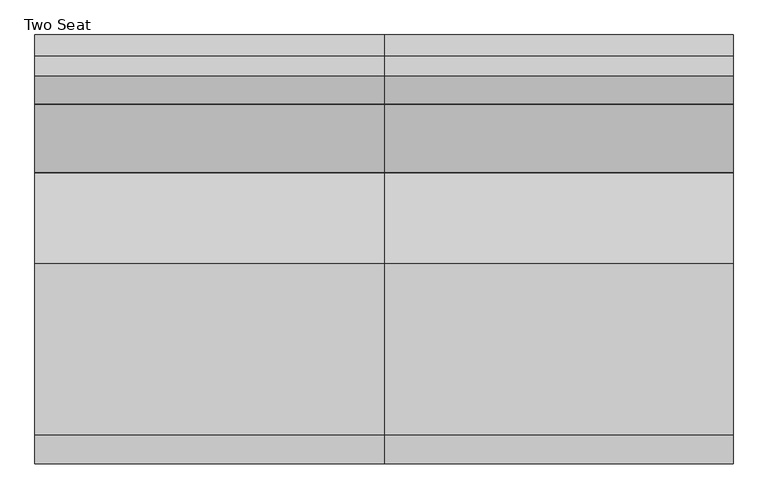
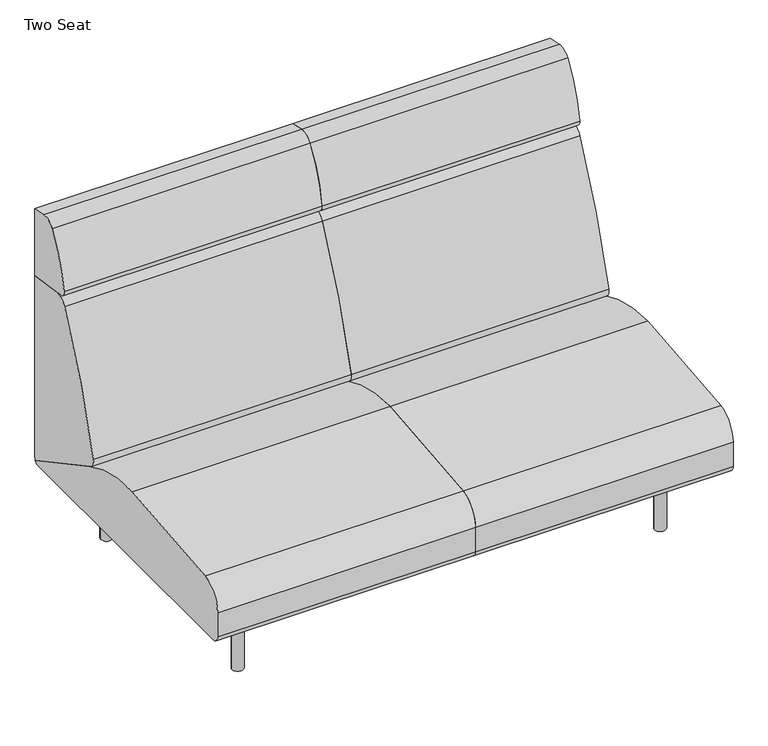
"""IFC4 building model written with IfcOpenShell, lengths in millimetres: furniture geometry, Coalesse_AM_Seating_LoungeChair_Sistema_LegBase_TwoSeat : Two Seat."""

from ifc_helpers import new_model, si_unit, point, frame, frame_2d, origin, origin_with_axes, place, context, project, spatial, polyline, circle_curve, trimmed, segment, composite_curve, outline, extrude, source, transform, mapped, element, save


def two_seat_70676dcd(model_context):
    return source(origin(), model_context, "Body", "SweptSolid", [
        extrude(outline(composite_curve([segment(trimmed(circle_curve(frame_2d((989.1765227, 335.9943389)), 6.096), [point((995.2725227, 335.9943389))], [point((983.0805227, 335.9943389))], False, "CARTESIAN"), True, "CONTINUOUS"), segment(trimmed(circle_curve(frame_2d((989.1765227, 335.9943389)), 6.096), [point((983.0805227, 335.9943389))], [point((995.2725227, 335.9943389))], False, "CARTESIAN"), True, "CONTINUOUS")], self_intersect=False)), origin_with_axes(), (0.0, 0.0, 1.0), 4.3662291),
        extrude(outline(composite_curve([segment(trimmed(circle_curve(frame_2d((989.1765227, -327.2630889)), 6.096), [point((995.2725227, -327.2630889))], [point((983.0805227, -327.2630889))], False, "CARTESIAN"), True, "CONTINUOUS"), segment(trimmed(circle_curve(frame_2d((989.1765227, -327.2630889)), 6.096), [point((983.0805227, -327.2630889))], [point((995.2725227, -327.2630889))], False, "CARTESIAN"), True, "CONTINUOUS")], self_intersect=False)), origin_with_axes(), (0.0, 0.0, 1.0), 4.3662291),
        extrude(outline(composite_curve([segment(polyline([(157.0399209, 1001.756375), (201.7356243, 1001.756375)]), True, "CONTINUOUS"), segment(trimmed(circle_curve(frame_2d((201.7356243, 998.708375)), 3.048), [point((201.7356243, 1001.756375))], [point((204.7836243, 998.708375))], False, "CARTESIAN"), True, "CONTINUOUS"), segment(polyline([(204.7836243, 998.708375), (204.7836243, 979.366199)]), True, "CONTINUOUS"), segment(trimmed(circle_curve(frame_2d((201.7356243, 979.366199)), 3.048), [point((204.7836243, 979.366199))], [point((201.7356243, 976.318199))], False, "CARTESIAN"), True, "CONTINUOUS"), segment(polyline([(201.7356243, 976.318199), (157.1249936, 976.318199)]), True, "CONTINUOUS"), segment(trimmed(circle_curve(frame_2d((157.1249936, 979.4512718)), 3.1330728), [point((157.1249936, 976.318199))], [point((153.9919209, 979.4512718))], False, "CARTESIAN"), True, "CONTINUOUS"), segment(polyline([(153.9919209, 979.4512718), (153.9919209, 998.708375)]), True, "CONTINUOUS"), segment(trimmed(circle_curve(frame_2d((157.0399209, 998.708375)), 3.048), [point((153.9919209, 998.708375))], [point((157.0399209, 1001.756375))], False, "CARTESIAN"), True, "CONTINUOUS")], self_intersect=False)), frame((0.0, 222.3519802, 0.0), z_axis=(0.0, 1.0, 0.0), x_axis=(0.0, 0.0, 1.0)), (0.0, 0.0, 1.0), 92.6273161),
        extrude(outline(composite_curve([segment(polyline([(157.0399209, 1001.756375), (201.7356243, 1001.756375)]), True, "CONTINUOUS"), segment(trimmed(circle_curve(frame_2d((201.7356243, 998.708375)), 3.048), [point((201.7356243, 1001.756375))], [point((204.7836243, 998.708375))], False, "CARTESIAN"), True, "CONTINUOUS"), segment(polyline([(204.7836243, 998.708375), (204.7836243, 979.366199)]), True, "CONTINUOUS"), segment(trimmed(circle_curve(frame_2d((201.7356243, 979.366199)), 3.048), [point((204.7836243, 979.366199))], [point((201.7356243, 976.318199))], False, "CARTESIAN"), True, "CONTINUOUS"), segment(polyline([(201.7356243, 976.318199), (157.1249936, 976.318199)]), True, "CONTINUOUS"), segment(trimmed(circle_curve(frame_2d((157.1249936, 979.4512718)), 3.1330728), [point((157.1249936, 976.318199))], [point((153.9919209, 979.4512718))], False, "CARTESIAN"), True, "CONTINUOUS"), segment(polyline([(153.9919209, 979.4512718), (153.9919209, 998.708375)]), True, "CONTINUOUS"), segment(trimmed(circle_curve(frame_2d((157.0399209, 998.708375)), 3.048), [point((153.9919209, 998.708375))], [point((157.0399209, 1001.756375))], False, "CARTESIAN"), True, "CONTINUOUS")], self_intersect=False)), frame((0.0, -314.9792963, 0.0), z_axis=(0.0, 1.0, 0.0), x_axis=(0.0, 0.0, 1.0)), (0.0, 0.0, 1.0), 92.6273161),
        extrude(outline(composite_curve([segment(trimmed(circle_curve(frame_2d((176.3356606, 966.5259944)), 3.048), [point((179.3836606, 966.5259944))], [point((176.3356606, 963.4779944))], False, "CARTESIAN"), True, "CONTINUOUS"), segment(polyline([(176.3356606, 963.4779944), (157.0399209, 963.4779944)]), True, "CONTINUOUS"), segment(trimmed(circle_curve(frame_2d((157.0399209, 966.5259944)), 3.048), [point((157.0399209, 963.4779944))], [point((153.9919209, 966.5259944))], False, "CARTESIAN"), True, "CONTINUOUS"), segment(polyline([(153.9919209, 966.5259944), (153.9919209, 1011.2135501)]), True, "CONTINUOUS"), segment(trimmed(circle_curve(frame_2d((157.056462, 1011.2135501)), 3.0645412), [point((153.9919209, 1011.2135501))], [point((157.056462, 1014.2780913))], False, "CARTESIAN"), True, "CONTINUOUS"), segment(polyline([(157.056462, 1014.2780913), (176.3356606, 1014.2780913)]), True, "CONTINUOUS"), segment(trimmed(circle_curve(frame_2d((176.3356606, 1011.2300913)), 3.048), [point((176.3356606, 1014.2780913))], [point((179.3836606, 1011.2300913))], False, "CARTESIAN"), True, "CONTINUOUS"), segment(polyline([(179.3836606, 1011.2300913), (179.3836606, 966.5259944)]), True, "CONTINUOUS")], self_intersect=False)), frame((0.0, -222.3519802, 0.0), z_axis=(0.0, 1.0, 0.0), x_axis=(0.0, 0.0, 1.0)), (0.0, 0.0, 1.0), 444.7039604),
        extrude(outline(composite_curve([segment(trimmed(circle_curve(frame_2d((989.1765227, 332.3095741)), 16.51), [point((1005.6865227, 332.3095741))], [point((972.6665227, 332.3095741))], False, "CARTESIAN"), True, "CONTINUOUS"), segment(trimmed(circle_curve(frame_2d((989.1765227, 332.3095741)), 16.51), [point((972.6665227, 332.3095741))], [point((1005.6865227, 332.3095741))], False, "CARTESIAN"), True, "CONTINUOUS")], self_intersect=False)), frame((0.0, 0.0, 4.3662291), z_axis=(0.0, 0.0, 1.0), x_axis=(1.0, 0.0, 0.0)), (0.0, 0.0, 1.0), 200.1037709),
        extrude(outline(composite_curve([segment(trimmed(circle_curve(frame_2d((988.7796477, -327.5470741)), 16.51), [point((1005.2896477, -327.5470741))], [point((972.2696477, -327.5470741))], False, "CARTESIAN"), True, "CONTINUOUS"), segment(trimmed(circle_curve(frame_2d((988.7796477, -327.5470741)), 16.51), [point((972.2696477, -327.5470741))], [point((1005.2896477, -327.5470741))], False, "CARTESIAN"), True, "CONTINUOUS")], self_intersect=False)), frame((0.0, 0.0, 4.3662291), z_axis=(0.0, 0.0, 1.0), x_axis=(1.0, 0.0, 0.0)), (0.0, 0.0, 1.0), 200.1037709),
        extrude(outline(composite_curve([segment(polyline([(459.4795619, 985.4592709), (459.4795619, 780.845009), (327.9700683, 799.327463)]), True, "CONTINUOUS"), segment(trimmed(circle_curve(frame_2d((330.6213159, 818.1920697)), 19.05), [point((327.9700683, 799.327463))], [point((311.7521971, 820.8110119))], False, "CARTESIAN"), True, "CONTINUOUS"), segment(trimmed(circle_curve(frame_2d((679.5815991, 769.7580741)), 371.3554516), [point((311.7521971, 820.8110119))], [point((372.1246101, 978.0249014))], False, "CARTESIAN"), True, "CONTINUOUS"), segment(trimmed(circle_curve(frame_2d((405.8944569, 955.1497055)), 40.7881985), [point((372.1246101, 978.0249014))], [point((414.3748002, 995.046584))], False, "CARTESIAN"), True, "CONTINUOUS"), segment(polyline([(414.3748002, 995.046584), (459.4795619, 985.4592709)]), True, "CONTINUOUS")], self_intersect=False)), frame((-374.8034773, 0.0, 0.0), z_axis=(1.0, 0.0, 0.0), x_axis=(0.0, 1.0, 0.0)), (0.0, 0.0, 1.0), 749.3),
        extrude(outline(composite_curve([segment(polyline([(459.4795619, 780.845009), (459.4795619, 228.1929806)]), True, "CONTINUOUS"), segment(trimmed(circle_curve(frame_2d((191.495971, 228.1929806)), 267.983591), [point((459.4795619, 228.1929806))], [point((458.9860775, 211.937276))], False, "CARTESIAN"), True, "CONTINUOUS"), segment(polyline([(458.9860775, 211.937276), (177.4990556, 364.1028799)]), True, "CONTINUOUS"), segment(trimmed(circle_curve(frame_2d((189.5778307, 386.4470781)), 25.4), [point((177.4990556, 364.1028799))], [point((164.9600055, 392.7018911))], False, "CARTESIAN"), True, "CONTINUOUS"), segment(trimmed(circle_curve(frame_2d((1918.112812, -52.7331923)), 1808.8552115), [point((164.9600055, 392.7018911))], [point((310.2880264, 776.0349508))], False, "CARTESIAN"), True, "CONTINUOUS"), segment(trimmed(circle_curve(frame_2d((344.1537133, 758.5785695)), 38.1), [point((310.2880264, 776.0349508))], [point((349.4562085, 796.3077829))], False, "CARTESIAN"), True, "CONTINUOUS"), segment(polyline([(349.4562085, 796.3077829), (459.4795619, 780.845009)]), True, "CONTINUOUS")], self_intersect=False)), frame((-374.8034773, 0.0, 0.0), z_axis=(1.0, 0.0, 0.0), x_axis=(0.0, 1.0, 0.0)), (0.0, 0.0, 1.0), 749.3),
        extrude(outline(composite_curve([segment(trimmed(circle_curve(frame_2d((-438.9184381, 226.822)), 22.352), [point((-438.9184381, 204.47))], [point((-461.2704381, 226.822))], False, "CARTESIAN"), True, "CONTINUOUS"), segment(polyline([(-461.2704381, 226.822), (-461.2704381, 301.4421993)]), True, "CONTINUOUS"), segment(trimmed(circle_curve(frame_2d((-385.0704381, 301.4421993)), 76.2), [point((-461.2704381, 301.4421993))], [point((-398.9277015, 376.3716077))], False, "CARTESIAN"), True, "CONTINUOUS"), segment(trimmed(circle_curve(frame_2d((2.2103559, -1792.6740646)), 2205.8265729), [point((-398.9277015, 376.3716077))], [point((-31.1968175, 412.8995185))], False, "CARTESIAN"), True, "CONTINUOUS"), segment(trimmed(circle_curve(frame_2d((-24.5128424, -28.3829182)), 441.333054), [point((-31.1968175, 412.8995185))], [point((184.5757008, 360.2774035))], False, "CARTESIAN"), True, "CONTINUOUS"), segment(polyline([(184.5757008, 360.2774035), (458.9860775, 211.937276)]), True, "CONTINUOUS"), segment(trimmed(circle_curve(frame_2d((442.3266309, 226.7871991)), 22.3171991), [point((458.9860775, 211.937276))], [point((442.3266309, 204.47))], False, "CARTESIAN"), True, "CONTINUOUS"), segment(polyline([(442.3266309, 204.47), (-438.9184381, 204.47)]), True, "CONTINUOUS")], self_intersect=False)), frame((-374.8034773, 0.0, 0.0), z_axis=(1.0, 0.0, 0.0), x_axis=(0.0, 1.0, 0.0)), (0.0, 0.0, 1.0), 749.3),
        extrude(outline(composite_curve([segment(polyline([(459.4795619, 985.4592709), (459.4795619, 780.845009), (327.9700683, 799.327463)]), True, "CONTINUOUS"), segment(trimmed(circle_curve(frame_2d((330.6213159, 818.1920697)), 19.05), [point((327.9700683, 799.327463))], [point((311.7521971, 820.8110119))], False, "CARTESIAN"), True, "CONTINUOUS"), segment(trimmed(circle_curve(frame_2d((679.5815991, 769.7580741)), 371.3554516), [point((311.7521971, 820.8110119))], [point((372.1246101, 978.0249014))], False, "CARTESIAN"), True, "CONTINUOUS"), segment(trimmed(circle_curve(frame_2d((405.8944569, 955.1497055)), 40.7881985), [point((372.1246101, 978.0249014))], [point((414.3748002, 995.046584))], False, "CARTESIAN"), True, "CONTINUOUS"), segment(polyline([(414.3748002, 995.046584), (459.4795619, 985.4592709)]), True, "CONTINUOUS")], self_intersect=False)), frame((374.4965227, 0.0, 0.0), z_axis=(1.0, 0.0, 0.0), x_axis=(0.0, 1.0, 0.0)), (0.0, 0.0, 1.0), 749.3),
        extrude(outline(composite_curve([segment(polyline([(459.4795619, 780.845009), (459.4795619, 228.1929806)]), True, "CONTINUOUS"), segment(trimmed(circle_curve(frame_2d((191.495971, 228.1929806)), 267.983591), [point((459.4795619, 228.1929806))], [point((458.9860775, 211.937276))], False, "CARTESIAN"), True, "CONTINUOUS"), segment(polyline([(458.9860775, 211.937276), (177.4990556, 364.1028799)]), True, "CONTINUOUS"), segment(trimmed(circle_curve(frame_2d((189.5778307, 386.4470781)), 25.4), [point((177.4990556, 364.1028799))], [point((164.9600055, 392.7018911))], False, "CARTESIAN"), True, "CONTINUOUS"), segment(trimmed(circle_curve(frame_2d((1918.112812, -52.7331923)), 1808.8552115), [point((164.9600055, 392.7018911))], [point((310.2880264, 776.0349508))], False, "CARTESIAN"), True, "CONTINUOUS"), segment(trimmed(circle_curve(frame_2d((344.1537133, 758.5785695)), 38.1), [point((310.2880264, 776.0349508))], [point((349.4562085, 796.3077829))], False, "CARTESIAN"), True, "CONTINUOUS"), segment(polyline([(349.4562085, 796.3077829), (459.4795619, 780.845009)]), True, "CONTINUOUS")], self_intersect=False)), frame((374.4965227, 0.0, 0.0), z_axis=(1.0, 0.0, 0.0), x_axis=(0.0, 1.0, 0.0)), (0.0, 0.0, 1.0), 749.3),
        extrude(outline(composite_curve([segment(trimmed(circle_curve(frame_2d((-438.9184381, 226.822)), 22.352), [point((-438.9184381, 204.47))], [point((-461.2704381, 226.822))], False, "CARTESIAN"), True, "CONTINUOUS"), segment(polyline([(-461.2704381, 226.822), (-461.2704381, 301.4421993)]), True, "CONTINUOUS"), segment(trimmed(circle_curve(frame_2d((-385.0704381, 301.4421993)), 76.2), [point((-461.2704381, 301.4421993))], [point((-398.9277015, 376.3716077))], False, "CARTESIAN"), True, "CONTINUOUS"), segment(trimmed(circle_curve(frame_2d((2.2103559, -1792.6740646)), 2205.8265729), [point((-398.9277015, 376.3716077))], [point((-31.1968175, 412.8995185))], False, "CARTESIAN"), True, "CONTINUOUS"), segment(trimmed(circle_curve(frame_2d((-24.5128424, -28.3829182)), 441.333054), [point((-31.1968175, 412.8995185))], [point((184.5757008, 360.2774035))], False, "CARTESIAN"), True, "CONTINUOUS"), segment(polyline([(184.5757008, 360.2774035), (458.9860775, 211.937276)]), True, "CONTINUOUS"), segment(trimmed(circle_curve(frame_2d((442.3266309, 226.7871991)), 22.3171991), [point((458.9860775, 211.937276))], [point((442.3266309, 204.47))], False, "CARTESIAN"), True, "CONTINUOUS"), segment(polyline([(442.3266309, 204.47), (-438.9184381, 204.47)]), True, "CONTINUOUS")], self_intersect=False)), frame((374.4965227, 0.0, 0.0), z_axis=(1.0, 0.0, 0.0), x_axis=(0.0, 1.0, 0.0)), (0.0, 0.0, 1.0), 749.3),
        extrude(outline(composite_curve([segment(trimmed(circle_curve(frame_2d((-240.1834773, 335.9943389)), 6.096), [point((-246.2794773, 335.9943389))], [point((-234.0874773, 335.9943389))], False, "CARTESIAN"), True, "CONTINUOUS"), segment(trimmed(circle_curve(frame_2d((-240.1834773, 335.9943389)), 6.096), [point((-234.0874773, 335.9943389))], [point((-246.2794773, 335.9943389))], False, "CARTESIAN"), True, "CONTINUOUS")], self_intersect=False)), origin_with_axes(), (0.0, 0.0, 1.0), 4.3662291),
        extrude(outline(composite_curve([segment(trimmed(circle_curve(frame_2d((-240.1834773, -327.2630889)), 6.096), [point((-246.2794773, -327.2630889))], [point((-234.0874773, -327.2630889))], False, "CARTESIAN"), True, "CONTINUOUS"), segment(trimmed(circle_curve(frame_2d((-240.1834773, -327.2630889)), 6.096), [point((-234.0874773, -327.2630889))], [point((-246.2794773, -327.2630889))], False, "CARTESIAN"), True, "CONTINUOUS")], self_intersect=False)), origin_with_axes(), (0.0, 0.0, 1.0), 4.3662291),
        extrude(outline(composite_curve([segment(trimmed(circle_curve(frame_2d((157.0399209, -249.7153296)), 3.048), [point((157.0399209, -252.7633296))], [point((153.9919209, -249.7153296))], False, "CARTESIAN"), True, "CONTINUOUS"), segment(polyline([(153.9919209, -249.7153296), (153.9919209, -230.4582264)]), True, "CONTINUOUS"), segment(trimmed(circle_curve(frame_2d((157.1249936, -230.4582264)), 3.1330728), [point((153.9919209, -230.4582264))], [point((157.1249936, -227.3251537))], False, "CARTESIAN"), True, "CONTINUOUS"), segment(polyline([(157.1249936, -227.3251537), (201.7356243, -227.3251537)]), True, "CONTINUOUS"), segment(trimmed(circle_curve(frame_2d((201.7356243, -230.3731537)), 3.048), [point((201.7356243, -227.3251537))], [point((204.7836243, -230.3731537))], False, "CARTESIAN"), True, "CONTINUOUS"), segment(polyline([(204.7836243, -230.3731537), (204.7836243, -249.7153296)]), True, "CONTINUOUS"), segment(trimmed(circle_curve(frame_2d((201.7356243, -249.7153296)), 3.048), [point((204.7836243, -249.7153296))], [point((201.7356243, -252.7633296))], False, "CARTESIAN"), True, "CONTINUOUS"), segment(polyline([(201.7356243, -252.7633296), (157.0399209, -252.7633296)]), True, "CONTINUOUS")], self_intersect=False)), frame((0.0, 222.3519802, 0.0), z_axis=(0.0, 1.0, 0.0), x_axis=(0.0, 0.0, 1.0)), (0.0, 0.0, 1.0), 92.6273161),
        extrude(outline(composite_curve([segment(trimmed(circle_curve(frame_2d((157.0399209, -249.7153296)), 3.048), [point((157.0399209, -252.7633296))], [point((153.9919209, -249.7153296))], False, "CARTESIAN"), True, "CONTINUOUS"), segment(polyline([(153.9919209, -249.7153296), (153.9919209, -230.4582264)]), True, "CONTINUOUS"), segment(trimmed(circle_curve(frame_2d((157.1249936, -230.4582264)), 3.1330728), [point((153.9919209, -230.4582264))], [point((157.1249936, -227.3251537))], False, "CARTESIAN"), True, "CONTINUOUS"), segment(polyline([(157.1249936, -227.3251537), (201.7356243, -227.3251537)]), True, "CONTINUOUS"), segment(trimmed(circle_curve(frame_2d((201.7356243, -230.3731537)), 3.048), [point((201.7356243, -227.3251537))], [point((204.7836243, -230.3731537))], False, "CARTESIAN"), True, "CONTINUOUS"), segment(polyline([(204.7836243, -230.3731537), (204.7836243, -249.7153296)]), True, "CONTINUOUS"), segment(trimmed(circle_curve(frame_2d((201.7356243, -249.7153296)), 3.048), [point((204.7836243, -249.7153296))], [point((201.7356243, -252.7633296))], False, "CARTESIAN"), True, "CONTINUOUS"), segment(polyline([(201.7356243, -252.7633296), (157.0399209, -252.7633296)]), True, "CONTINUOUS")], self_intersect=False)), frame((0.0, -314.9792963, 0.0), z_axis=(0.0, 1.0, 0.0), x_axis=(0.0, 0.0, 1.0)), (0.0, 0.0, 1.0), 92.6273161),
        extrude(outline(composite_curve([segment(polyline([(179.3836606, -217.532949), (179.3836606, -262.2370459)]), True, "CONTINUOUS"), segment(trimmed(circle_curve(frame_2d((176.3356606, -262.2370459)), 3.048), [point((179.3836606, -262.2370459))], [point((176.3356606, -265.2850459))], False, "CARTESIAN"), True, "CONTINUOUS"), segment(polyline([(176.3356606, -265.2850459), (157.056462, -265.2850459)]), True, "CONTINUOUS"), segment(trimmed(circle_curve(frame_2d((157.056462, -262.2205047)), 3.0645412), [point((157.056462, -265.2850459))], [point((153.9919209, -262.2205047))], False, "CARTESIAN"), True, "CONTINUOUS"), segment(polyline([(153.9919209, -262.2205047), (153.9919209, -217.532949)]), True, "CONTINUOUS"), segment(trimmed(circle_curve(frame_2d((157.0399209, -217.532949)), 3.048), [point((153.9919209, -217.532949))], [point((157.0399209, -214.484949))], False, "CARTESIAN"), True, "CONTINUOUS"), segment(polyline([(157.0399209, -214.484949), (176.3356606, -214.484949)]), True, "CONTINUOUS"), segment(trimmed(circle_curve(frame_2d((176.3356606, -217.532949)), 3.048), [point((176.3356606, -214.484949))], [point((179.3836606, -217.532949))], False, "CARTESIAN"), True, "CONTINUOUS")], self_intersect=False)), frame((0.0, -222.3519802, 0.0), z_axis=(0.0, 1.0, 0.0), x_axis=(0.0, 0.0, 1.0)), (0.0, 0.0, 1.0), 444.7039604),
        extrude(outline(composite_curve([segment(trimmed(circle_curve(frame_2d((-240.1834773, 332.3095741)), 16.51), [point((-256.6934773, 332.3095741))], [point((-223.6734773, 332.3095741))], False, "CARTESIAN"), True, "CONTINUOUS"), segment(trimmed(circle_curve(frame_2d((-240.1834773, 332.3095741)), 16.51), [point((-223.6734773, 332.3095741))], [point((-256.6934773, 332.3095741))], False, "CARTESIAN"), True, "CONTINUOUS")], self_intersect=False)), frame((0.0, 0.0, 4.3662291), z_axis=(0.0, 0.0, 1.0), x_axis=(1.0, 0.0, 0.0)), (0.0, 0.0, 1.0), 200.1037709),
        extrude(outline(composite_curve([segment(trimmed(circle_curve(frame_2d((-239.7866023, -327.5470741)), 16.51), [point((-256.2966023, -327.5470741))], [point((-223.2766023, -327.5470741))], False, "CARTESIAN"), True, "CONTINUOUS"), segment(trimmed(circle_curve(frame_2d((-239.7866023, -327.5470741)), 16.51), [point((-223.2766023, -327.5470741))], [point((-256.2966023, -327.5470741))], False, "CARTESIAN"), True, "CONTINUOUS")], self_intersect=False)), frame((0.0, 0.0, 4.3662291), z_axis=(0.0, 0.0, 1.0), x_axis=(1.0, 0.0, 0.0)), (0.0, 0.0, 1.0), 200.1037709),
    ])


if __name__ == "__main__":
    model = new_model("IFC4")
    model_context = context("Model", 3, world=origin())
    ifc_project = project(units=[si_unit("LENGTHUNIT", "METRE", prefix="MILLI")], contexts=[model_context])
    site = spatial("IfcSite", under=ifc_project)
    building = spatial("IfcBuilding", under=site)
    placement = place(None, origin())
    two_seat_shape = two_seat_70676dcd(model_context)
    element("IfcFurniture", 1, ObjectType="Coalesse_AM_Seating_LoungeChair_Sistema_LegBase_TwoSeat : Two Seat", at=placement, inside=building, context=model_context, shape_type="MappedRepresentation", body=[
        mapped(two_seat_shape, transform((0.0, 0.0, 0.0), x_axis=(1.0, 0.0, 0.0), y_axis=(0.0, 1.0, 0.0), z_axis=(0.0, 0.0, 1.0))),
    ])
    save(model, "model.ifc")
